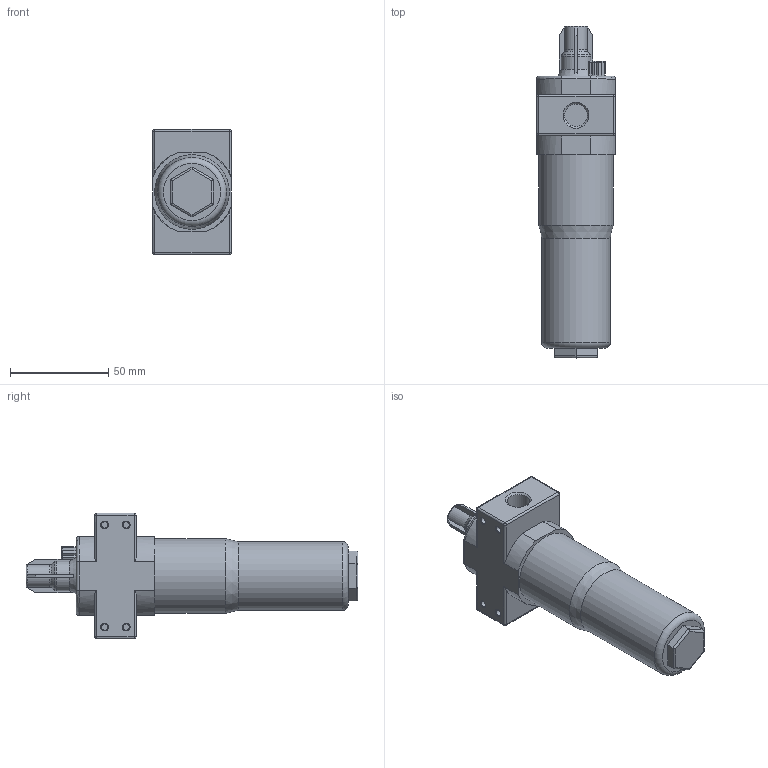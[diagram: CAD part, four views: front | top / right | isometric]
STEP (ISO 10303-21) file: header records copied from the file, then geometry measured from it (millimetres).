
FILE_DESCRIPTION(/* description */ ('STEP AP214'),/* implementation_level */ '2;1');
FILE_NAME(/* name */ '90-OC-14.stp',/* time_stamp */ '2026-01-20T15:14:32+01:00',/* author */ ('Tschernatsch'),/* organization */ ('CADENAS'),/* preprocessor_version */ 'ST-DEVELOPER v20',/* originating_system */ 'Autodesk Inventor 2024',/* authorisation */ ' ');
FILE_SCHEMA (('AUTOMOTIVE_DESIGN { 1 0 10303 214 3 1 1 }'));
Length unit declared in the file: millimetre
Products named in the file (1): LOE-G1/4-MINI_____
Bounding box: 40 x 169 x 64 mm (x, y, z)
Volume: 184581.8 mm3; surface area: 25721.2 mm2
Topology: 1 solids, 1 shells, 182 faces, 444 edges, 266 vertices
Faces by surface type: cylinder 74, plane 66, torus 22, cone 12, sphere 8
Full cylindrical faces by diameter (mm): 3.242 x4, 11.445 x2, 35 x1, 38 x1
Entity records: 5630 total; most frequent: CARTESIAN_POINT 1379, DIRECTION 892, ORIENTED_EDGE 872, EDGE_CURVE 436, AXIS2_PLACEMENT_3D 334, VERTEX_POINT 266, LINE 224, VECTOR 224
